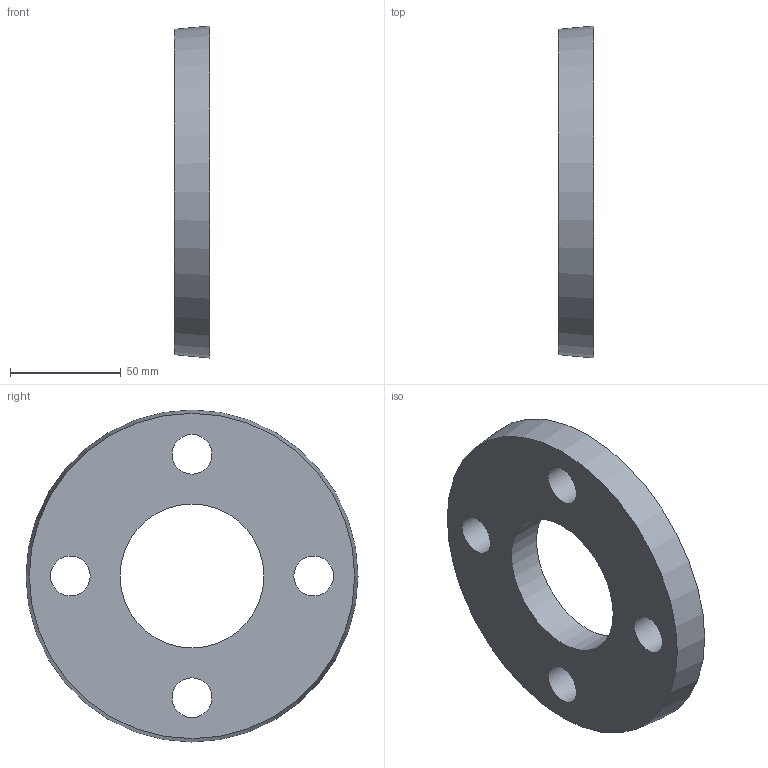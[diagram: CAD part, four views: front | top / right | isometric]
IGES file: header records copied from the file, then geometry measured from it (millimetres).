
Global section: file name: 059000050.ipt; native system: Autodesk Inventor 2015; preprocessor: unknown; author: KIM; date: 20171207.165914; units: millimetre
Bounding box: 16 x 150 x 150 mm (x, y, z)
Volume: 207747.2 mm3; surface area: 40354.3 mm2
Topology: 1 solids, 1 shells, 8 faces, 20 edges, 14 vertices
Faces by surface type: revolution 5, plane 2, cone 1
